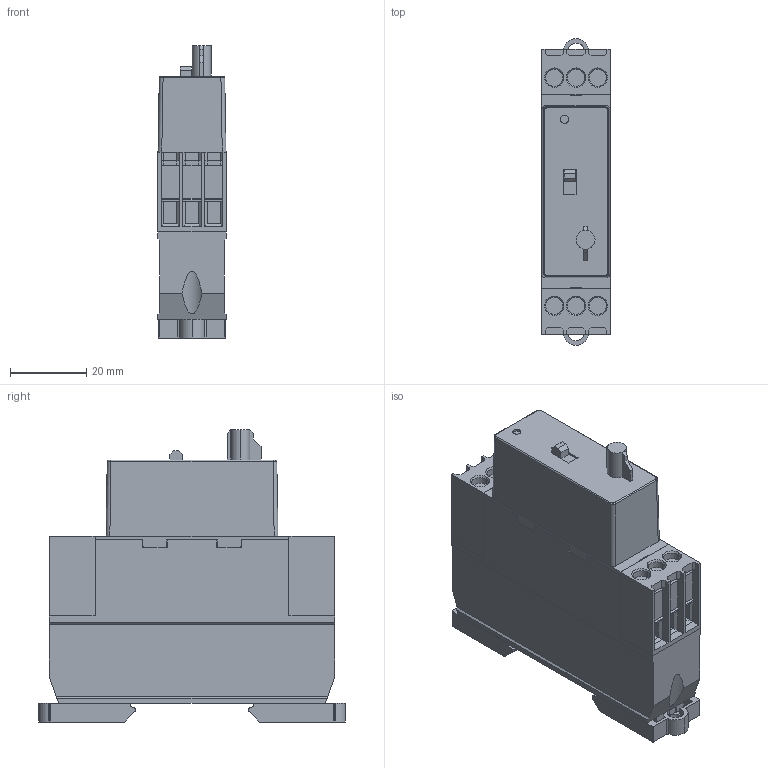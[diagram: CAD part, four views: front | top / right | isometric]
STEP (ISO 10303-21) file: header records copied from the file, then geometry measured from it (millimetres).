
FILE_DESCRIPTION (( 'STEP AP214' ), '1' );
FILE_NAME ('AL1.STEP', '2024-04-03T13:40:52', ( '' ), ( '' ), 'SwSTEP 2.0', 'SolidWorks 2022', '' );
FILE_SCHEMA (( 'AUTOMOTIVE_DESIGN' ));
Length unit declared in the file: millimetre
Products named in the file (1): AL1
Bounding box: 17.9 x 80.6 x 77 mm (x, y, z)
Volume: 72868.3 mm3; surface area: 18194.6 mm2
Topology: 1 solids, 5 shells, 563 faces, 1564 edges, 998 vertices
Faces by surface type: plane 433, cylinder 94, cone 30, bspline 6
Entity records: 19766 total; most frequent: CARTESIAN_POINT 3366, ORIENTED_EDGE 3128, DIRECTION 2832, EDGE_CURVE 1564, VECTOR 1312, LINE 1312, VERTEX_POINT 998, AXIS2_PLACEMENT_3D 760
